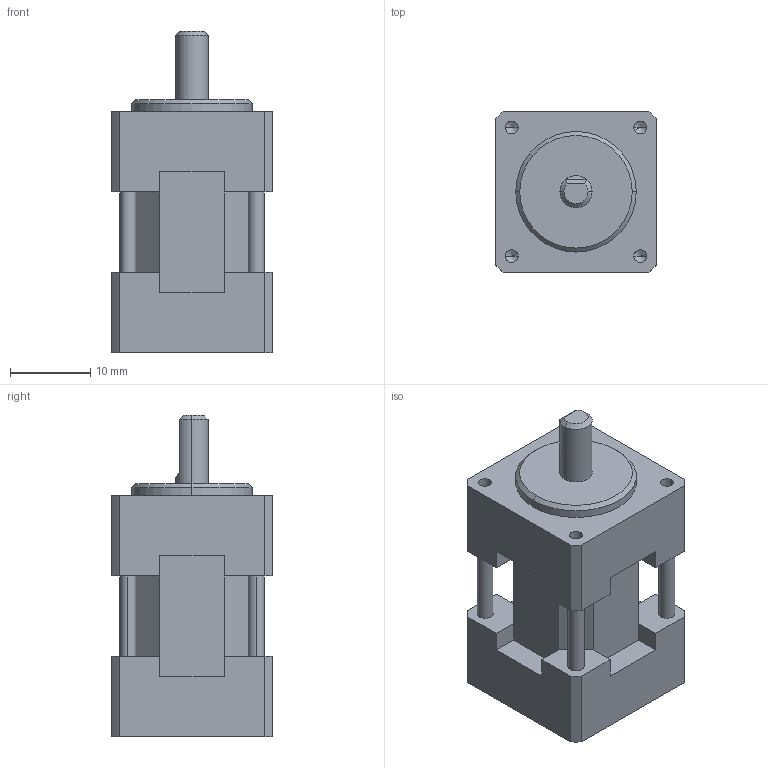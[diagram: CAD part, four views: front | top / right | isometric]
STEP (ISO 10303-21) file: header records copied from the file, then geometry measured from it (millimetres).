
FILE_DESCRIPTION (( 'STEP AP214' ), '1' );
FILE_NAME ('TS3682N1.STEP', '2016-09-09T06:30:21', ( 'hoho' ), ( '' ), 'SwSTEP 2.0', 'SolidWorks 2013', '' );
FILE_SCHEMA (( 'AUTOMOTIVE_DESIGN' ));
Length unit declared in the file: millimetre
Products named in the file (1): TS3682N1
Bounding box: 20 x 20 x 40 mm (x, y, z)
Volume: 9699.1 mm3; surface area: 3912.6 mm2
Topology: 1 solids, 1 shells, 96 faces, 246 edges, 150 vertices
Faces by surface type: plane 55, cylinder 28, cone 13
Entity records: 2956 total; most frequent: CARTESIAN_POINT 494, DIRECTION 491, ORIENTED_EDGE 476, EDGE_CURVE 238, LINE 173, VECTOR 173, AXIS2_PLACEMENT_3D 159, VERTEX_POINT 150
